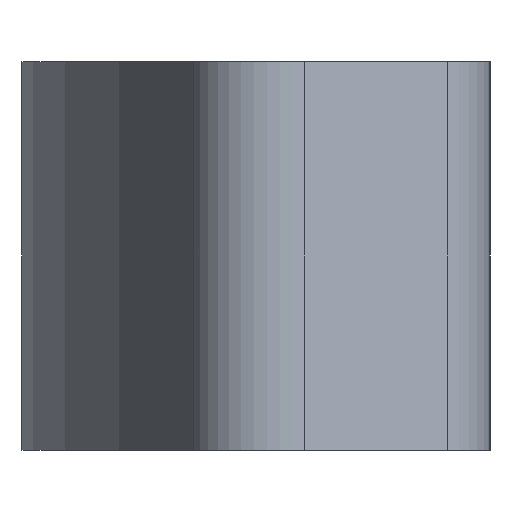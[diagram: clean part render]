
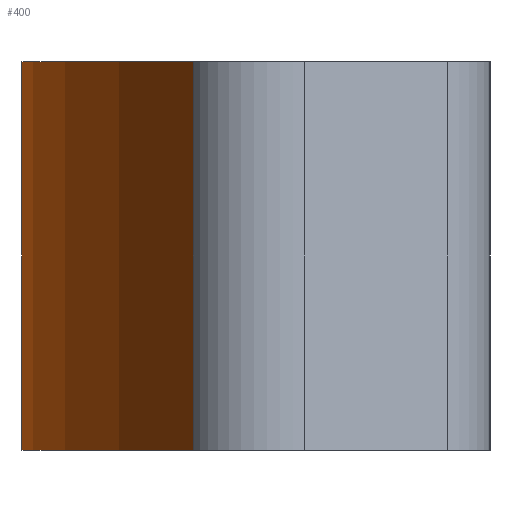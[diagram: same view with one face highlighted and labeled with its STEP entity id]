
A CAD part, front view. The second image highlights one B-rep face of the part: STEP entity #400.
In plain terms, the highlighted cylindrical face has radius 54 mm (diameter 108 mm), a partial arc.
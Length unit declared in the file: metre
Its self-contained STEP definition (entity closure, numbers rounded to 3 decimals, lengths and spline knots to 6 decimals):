
#17=CYLINDRICAL_SURFACE('',#465,0.054);
#34=LINE('',#668,#58);
#44=LINE('',#713,#68);
#58=VECTOR('',#529,1.);
#68=VECTOR('',#577,1.);
#136=ORIENTED_EDGE('',*,*,#232,.T.);
#137=ORIENTED_EDGE('',*,*,#220,.T.);
#138=ORIENTED_EDGE('',*,*,#209,.F.);
#139=ORIENTED_EDGE('',*,*,#200,.F.);
#200=EDGE_CURVE('',#256,#257,#293,.F.);
#209=EDGE_CURVE('',#257,#264,#34,.T.);
#220=EDGE_CURVE('',#270,#264,#303,.T.);
#232=EDGE_CURVE('',#256,#270,#44,.T.);
#256=VERTEX_POINT('',#649);
#257=VERTEX_POINT('',#651);
#264=VERTEX_POINT('',#669);
#270=VERTEX_POINT('',#691);
#293=CIRCLE('',#439,0.054);
#303=CIRCLE('',#456,0.054);
#328=EDGE_LOOP('',(#136,#137,#138,#139));
#362=FACE_BOUND('',#328,.T.);
#400=ADVANCED_FACE('',(#362),#17,.T.);
#439=AXIS2_PLACEMENT_3D('',#650,#510,#511);
#456=AXIS2_PLACEMENT_3D('',#690,#554,#555);
#465=AXIS2_PLACEMENT_3D('',#712,#575,#576);
#510=DIRECTION('',(0.,0.,1.));
#511=DIRECTION('',(1.,0.,0.));
#529=DIRECTION('',(0.,0.,1.));
#554=DIRECTION('',(0.,0.,-1.));
#555=DIRECTION('',(-1.,0.,0.));
#575=DIRECTION('',(0.,0.,1.));
#576=DIRECTION('',(-1.,0.,0.));
#577=DIRECTION('',(0.,0.,1.));
#649=CARTESIAN_POINT('',(-0.174709,-0.027311,-0.2455));
#650=CARTESIAN_POINT('',(-0.126,-0.004,-0.2455));
#651=CARTESIAN_POINT('',(-0.174709,0.019311,-0.2455));
#668=CARTESIAN_POINT('',(-0.174709,0.019311,-0.245502));
#669=CARTESIAN_POINT('',(-0.174709,0.019311,-0.2335));
#690=CARTESIAN_POINT('',(-0.126,-0.004,-0.2335));
#691=CARTESIAN_POINT('',(-0.174709,-0.027311,-0.2335));
#712=CARTESIAN_POINT('',(-0.126,-0.004,-0.245502));
#713=CARTESIAN_POINT('',(-0.174709,-0.027311,-0.245502));
